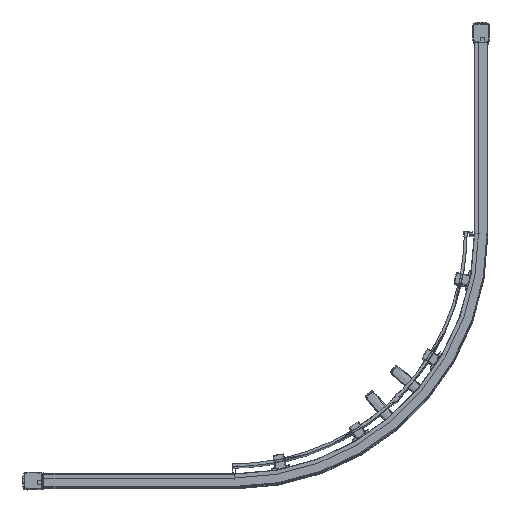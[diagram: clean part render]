
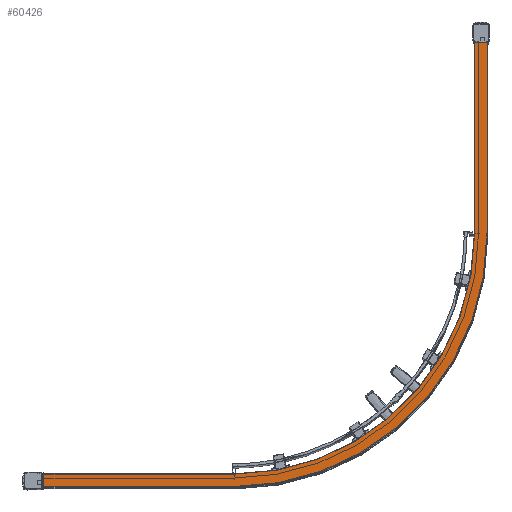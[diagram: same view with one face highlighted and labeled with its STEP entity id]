
A CAD part, top view. The second image highlights one B-rep face of the part: STEP entity #60426.
In plain terms, the highlighted planar face has unit normal (0, 0, 1).
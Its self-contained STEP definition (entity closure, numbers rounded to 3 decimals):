
#1737=PLANE($,#65207);
#4614=FACE_OUTER_BOUND($,#7952,.T.);
#7952=EDGE_LOOP($,(#48095,#48096,#48097,#48098,#48099,#48100,#48101,#48102));
#10797=CIRCLE($,#65208,511.6);
#10798=CIRCLE($,#65209,538.);
#15629=LINE($,#147086,#20927);
#15641=LINE($,#147167,#20939);
#15644=LINE($,#147173,#20942);
#15645=LINE($,#147177,#20943);
#15646=LINE($,#147179,#20944);
#15647=LINE($,#147181,#20945);
#20927=VECTOR($,#77592,26.4);
#20939=VECTOR($,#77670,407.5);
#20942=VECTOR($,#77675,407.5);
#20943=VECTOR($,#77678,410.);
#20944=VECTOR($,#77679,26.4);
#20945=VECTOR($,#77680,410.);
#26741=VERTEX_POINT($,#147081);
#26742=VERTEX_POINT($,#147084);
#26751=VERTEX_POINT($,#147166);
#26753=VERTEX_POINT($,#147172);
#26754=VERTEX_POINT($,#147174);
#26755=VERTEX_POINT($,#147176);
#26756=VERTEX_POINT($,#147178);
#26757=VERTEX_POINT($,#147180);
#34181=EDGE_CURVE($,#26741,#26742,#15629,.T.);
#34207=EDGE_CURVE($,#26741,#26751,#15641,.T.);
#34210=EDGE_CURVE($,#26753,#26742,#15644,.T.);
#34211=EDGE_CURVE($,#26753,#26754,#10797,.T.);
#34212=EDGE_CURVE($,#26754,#26755,#15645,.T.);
#34213=EDGE_CURVE($,#26756,#26755,#15646,.T.);
#34214=EDGE_CURVE($,#26757,#26756,#15647,.T.);
#34215=EDGE_CURVE($,#26751,#26757,#10798,.T.);
#48095=ORIENTED_EDGE($,*,*,#34181,.T.);
#48096=ORIENTED_EDGE($,*,*,#34210,.F.);
#48097=ORIENTED_EDGE($,*,*,#34211,.T.);
#48098=ORIENTED_EDGE($,*,*,#34212,.T.);
#48099=ORIENTED_EDGE($,*,*,#34213,.F.);
#48100=ORIENTED_EDGE($,*,*,#34214,.F.);
#48101=ORIENTED_EDGE($,*,*,#34215,.F.);
#48102=ORIENTED_EDGE($,*,*,#34207,.F.);
#60426=ADVANCED_FACE($,(#4614),#1737,.T.);
#65207=AXIS2_PLACEMENT_3D($,#147171,#77673,#77674);
#65208=AXIS2_PLACEMENT_3D($,#147175,#77676,#77677);
#65209=AXIS2_PLACEMENT_3D($,#147182,#77681,#77682);
#77592=DIRECTION($,(-1.,0.,0.));
#77670=DIRECTION($,(0.,-1.,0.));
#77673=DIRECTION('center_axis',(0.,0.,
1.));
#77674=DIRECTION('ref_axis',(-1.,0.,0.));
#77675=DIRECTION($,(0.,1.,0.));
#77676=DIRECTION('center_axis',(0.,0.,
-1.));
#77677=DIRECTION('ref_axis',(1.,0.,0.));
#77678=DIRECTION($,(-1.,0.,0.));
#77679=DIRECTION($,(0.,1.,0.));
#77680=DIRECTION($,(-1.,0.,0.));
#77681=DIRECTION('center_axis',(0.,0.,
-1.));
#77682=DIRECTION('ref_axis',(1.,0.,0.));
#147081=CARTESIAN_POINT('',(789.,762.319,2010.));
#147084=CARTESIAN_POINT('',(762.6,762.319,2010.));
#147086=CARTESIAN_POINT($,(790.298,762.319,2010.));
#147166=CARTESIAN_POINT('',(789.,354.819,2010.));
#147167=CARTESIAN_POINT($,(789.,764.819,2010.));
#147171=CARTESIAN_POINT('Origin',(789.,764.819,2010.));
#147172=CARTESIAN_POINT('',(762.6,354.819,2010.));
#147173=CARTESIAN_POINT($,(762.6,764.819,2010.));
#147174=CARTESIAN_POINT('',(251.,-156.781,2010.));
#147175=CARTESIAN_POINT('Origin',(251.,354.819,2010.));
#147176=CARTESIAN_POINT('',(-159.,-156.781,2010.));
#147177=CARTESIAN_POINT($,(251.,-156.781,2010.));
#147178=CARTESIAN_POINT('',(-159.,-183.181,2010.));
#147179=CARTESIAN_POINT($,(-159.,-183.181,2010.));
#147180=CARTESIAN_POINT('',(251.,-183.181,2010.));
#147181=CARTESIAN_POINT($,(251.,-183.181,2010.));
#147182=CARTESIAN_POINT('Origin',(251.,354.819,2010.));
